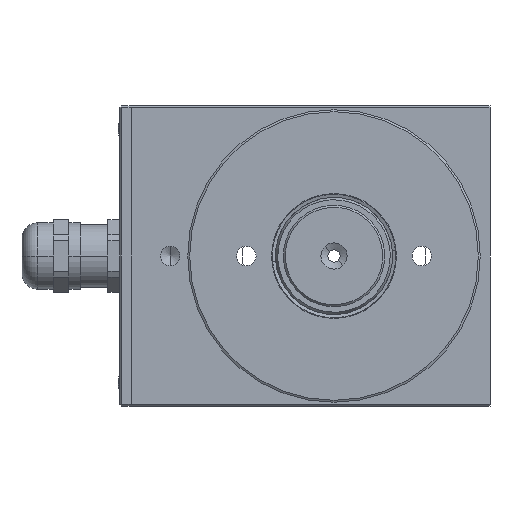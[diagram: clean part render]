
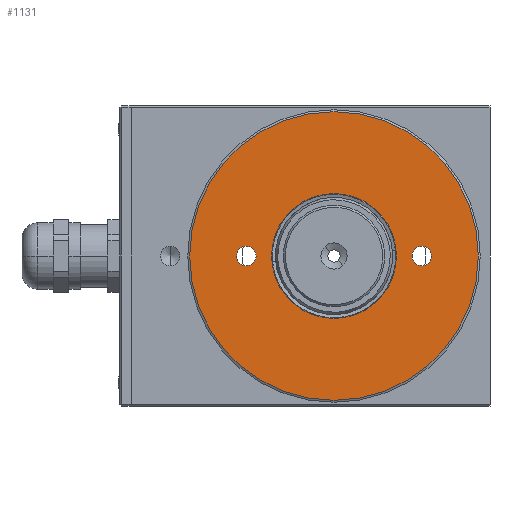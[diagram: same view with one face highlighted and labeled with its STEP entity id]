
A CAD part, left-side view. The second image highlights one B-rep face of the part: STEP entity #1131.
In plain terms, the highlighted planar face has unit normal (-1, 0, 0).
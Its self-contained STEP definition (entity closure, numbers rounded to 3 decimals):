
#717 = EDGE_LOOP ( 'NONE', ( #1137, #1134 ) ) ;
#722 = VERTEX_POINT ( 'NONE', #3168 ) ;
#729 = EDGE_CURVE ( 'NONE', #1061, #1062, #3096, .T. ) ;
#780 = VERTEX_POINT ( 'NONE', #3494 ) ;
#836 = VERTEX_POINT ( 'NONE', #3420 ) ;
#853 = VERTEX_POINT ( 'NONE', #3397 ) ;
#859 = EDGE_CURVE ( 'NONE', #836, #853, #3385, .T. ) ;
#866 = VERTEX_POINT ( 'NONE', #3479 ) ;
#868 = EDGE_CURVE ( 'NONE', #866, #780, #3484, .T. ) ;
#899 = EDGE_CURVE ( 'NONE', #780, #866, #3440, .T. ) ;
#900 = EDGE_LOOP ( 'NONE', ( #1133, #1128 ) ) ;
#901 = VERTEX_POINT ( 'NONE', #3441 ) ;
#1045 = ORIENTED_EDGE ( 'NONE', *, *, #729, .T. ) ;
#1057 = EDGE_CURVE ( 'NONE', #1062, #1061, #3993, .T. ) ;
#1058 = EDGE_CURVE ( 'NONE', #722, #901, #3977, .T. ) ;
#1061 = VERTEX_POINT ( 'NONE', #3992 ) ;
#1062 = VERTEX_POINT ( 'NONE', #3983 ) ;
#1128 = ORIENTED_EDGE ( 'NONE', *, *, #859, .F. ) ;
#1131 = ADVANCED_FACE ( 'NONE', ( #4043, #3897, #3896, #3895 ), #3894, .F. ) ;
#1132 = ORIENTED_EDGE ( 'NONE', *, *, #1146, .F. ) ;
#1133 = ORIENTED_EDGE ( 'NONE', *, *, #1135, .F. ) ;
#1134 = ORIENTED_EDGE ( 'NONE', *, *, #868, .F. ) ;
#1135 = EDGE_CURVE ( 'NONE', #853, #836, #3905, .T. ) ;
#1137 = ORIENTED_EDGE ( 'NONE', *, *, #899, .F. ) ;
#1139 = ORIENTED_EDGE ( 'NONE', *, *, #1057, .T. ) ;
#1140 = EDGE_LOOP ( 'NONE', ( #1132, #1155 ) ) ;
#1146 = EDGE_CURVE ( 'NONE', #901, #722, #3876, .T. ) ;
#1154 = EDGE_LOOP ( 'NONE', ( #1139, #1045 ) ) ;
#1155 = ORIENTED_EDGE ( 'NONE', *, *, #1058, .F. ) ;
#3077 = DIRECTION ( 'NONE',  ( 0., 0., -1. ) ) ;
#3078 = DIRECTION ( 'NONE',  ( -1., 0., 0. ) ) ;
#3082 = CARTESIAN_POINT ( 'NONE',  ( -52.913, -4.913, 0. ) ) ;
#3092 = AXIS2_PLACEMENT_3D ( 'NONE', #3082, #3078, #3077 ) ;
#3096 = CIRCLE ( 'NONE', #3092, 37. ) ;
#3168 = CARTESIAN_POINT ( 'NONE',  ( -52.913, 17.587, -2.5 ) ) ;
#3376 = CARTESIAN_POINT ( 'NONE',  ( -52.913, -4.913, 0. ) ) ;
#3385 = CIRCLE ( 'NONE', #3391, 16. ) ;
#3391 = AXIS2_PLACEMENT_3D ( 'NONE', #3376, #3487, #3486 ) ;
#3397 = CARTESIAN_POINT ( 'NONE',  ( -52.913, -4.913, 16. ) ) ;
#3420 = CARTESIAN_POINT ( 'NONE',  ( -52.913, -4.913, -16. ) ) ;
#3433 = DIRECTION ( 'NONE',  ( 0., 0., 1. ) ) ;
#3434 = DIRECTION ( 'NONE',  ( -1., 0., 0. ) ) ;
#3435 = CARTESIAN_POINT ( 'NONE',  ( -52.913, -27.413, 0. ) ) ;
#3440 = CIRCLE ( 'NONE', #3448, 2.5 ) ;
#3441 = CARTESIAN_POINT ( 'NONE',  ( -52.913, 17.587, 2.5 ) ) ;
#3448 = AXIS2_PLACEMENT_3D ( 'NONE', #3435, #3434, #3433 ) ;
#3479 = CARTESIAN_POINT ( 'NONE',  ( -52.913, -27.413, -2.5 ) ) ;
#3480 = CARTESIAN_POINT ( 'NONE',  ( -52.913, -27.413, 0. ) ) ;
#3484 = CIRCLE ( 'NONE', #3524, 2.5 ) ;
#3486 = DIRECTION ( 'NONE',  ( 0., 0., 1. ) ) ;
#3487 = DIRECTION ( 'NONE',  ( -1., 0., 0. ) ) ;
#3494 = CARTESIAN_POINT ( 'NONE',  ( -52.913, -27.413, 2.5 ) ) ;
#3522 = DIRECTION ( 'NONE',  ( 0., 0., 1. ) ) ;
#3523 = DIRECTION ( 'NONE',  ( -1., 0., 0. ) ) ;
#3524 = AXIS2_PLACEMENT_3D ( 'NONE', #3480, #3523, #3522 ) ;
#3826 = DIRECTION ( 'NONE',  ( 0., 0., 1. ) ) ;
#3827 = DIRECTION ( 'NONE',  ( -1., 0., 0. ) ) ;
#3828 = AXIS2_PLACEMENT_3D ( 'NONE', #3893, #3827, #3826 ) ;
#3876 = CIRCLE ( 'NONE', #3828, 2.5 ) ;
#3878 = DIRECTION ( 'NONE',  ( 0., 0., 1. ) ) ;
#3879 = DIRECTION ( 'NONE',  ( -1., 0., 0. ) ) ;
#3886 = DIRECTION ( 'NONE',  ( 0., 0., -1. ) ) ;
#3887 = DIRECTION ( 'NONE',  ( 1., 0., 0. ) ) ;
#3888 = CARTESIAN_POINT ( 'NONE',  ( -52.913, -4.913, 0. ) ) ;
#3890 = AXIS2_PLACEMENT_3D ( 'NONE', #3900, #3879, #3878 ) ;
#3893 = CARTESIAN_POINT ( 'NONE',  ( -52.913, 17.587, 0. ) ) ;
#3894 = PLANE ( 'NONE',  #3898 ) ;
#3895 = FACE_OUTER_BOUND ( 'NONE', #1154, .T. ) ;
#3896 = FACE_BOUND ( 'NONE', #1140, .T. ) ;
#3897 = FACE_BOUND ( 'NONE', #717, .T. ) ;
#3898 = AXIS2_PLACEMENT_3D ( 'NONE', #3888, #3887, #3886 ) ;
#3900 = CARTESIAN_POINT ( 'NONE',  ( -52.913, -4.913, 0. ) ) ;
#3905 = CIRCLE ( 'NONE', #3890, 16. ) ;
#3974 = DIRECTION ( 'NONE',  ( 0., 0., 1. ) ) ;
#3975 = DIRECTION ( 'NONE',  ( -1., 0., 0. ) ) ;
#3976 = AXIS2_PLACEMENT_3D ( 'NONE', #3991, #3975, #3974 ) ;
#3977 = CIRCLE ( 'NONE', #3976, 2.5 ) ;
#3979 = DIRECTION ( 'NONE',  ( 0., 0., -1. ) ) ;
#3980 = DIRECTION ( 'NONE',  ( -1., 0., 0. ) ) ;
#3983 = CARTESIAN_POINT ( 'NONE',  ( -52.913, -4.913, -37. ) ) ;
#3988 = CARTESIAN_POINT ( 'NONE',  ( -52.913, -4.913, 0. ) ) ;
#3990 = AXIS2_PLACEMENT_3D ( 'NONE', #3988, #3980, #3979 ) ;
#3991 = CARTESIAN_POINT ( 'NONE',  ( -52.913, 17.587, 0. ) ) ;
#3992 = CARTESIAN_POINT ( 'NONE',  ( -52.913, -4.913, 37. ) ) ;
#3993 = CIRCLE ( 'NONE', #3990, 37. ) ;
#4043 = FACE_BOUND ( 'NONE', #900, .T. ) ;
